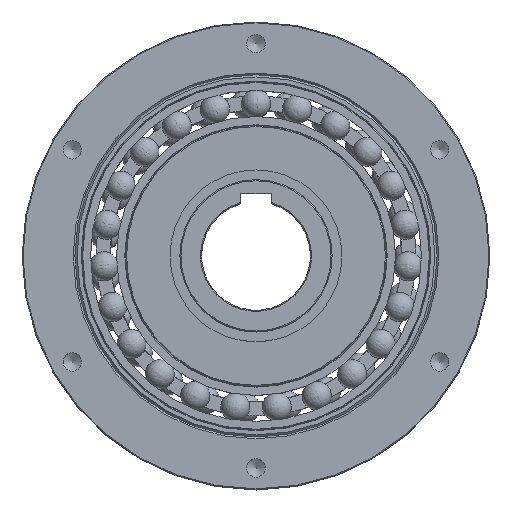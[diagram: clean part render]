
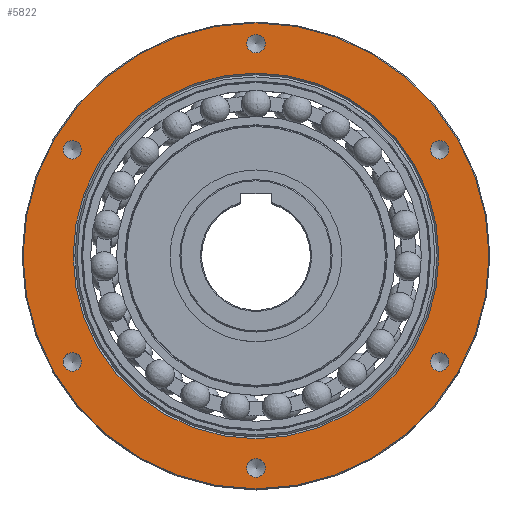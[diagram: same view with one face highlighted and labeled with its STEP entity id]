
A CAD part, top view. The second image highlights one B-rep face of the part: STEP entity #5822.
In plain terms, the highlighted planar face has unit normal (0, 0, 1).
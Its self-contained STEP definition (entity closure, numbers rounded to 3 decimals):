
#119 = EDGE_CURVE ( 'NONE', #1591, #1591, #6785, .T. ) ;
#138 = ORIENTED_EDGE ( 'NONE', *, *, #5409, .F. ) ;
#156 = EDGE_LOOP ( 'NONE', ( #8299 ) ) ;
#352 = VERTEX_POINT ( 'NONE', #7531 ) ;
#525 = DIRECTION ( 'NONE',  ( 0., 0., -1. ) ) ;
#680 = CARTESIAN_POINT ( 'NONE',  ( 0., 97.5, 35.5 ) ) ;
#743 = CARTESIAN_POINT ( 'NONE',  ( -84.437, -48.75, 35.5 ) ) ;
#1171 = DIRECTION ( 'NONE',  ( 0., 0., -1. ) ) ;
#1206 = CARTESIAN_POINT ( 'NONE',  ( 4.25, -97.5, 35.5 ) ) ;
#1258 = CIRCLE ( 'NONE', #8235, 4.25 ) ;
#1397 = DIRECTION ( 'NONE',  ( 1., 0., 0. ) ) ;
#1463 = DIRECTION ( 'NONE',  ( 1., 0., 0. ) ) ;
#1486 = VERTEX_POINT ( 'NONE', #3231 ) ;
#1537 = EDGE_LOOP ( 'NONE', ( #2968 ) ) ;
#1591 = VERTEX_POINT ( 'NONE', #2422 ) ;
#1796 = VERTEX_POINT ( 'NONE', #6120 ) ;
#2048 = AXIS2_PLACEMENT_3D ( 'NONE', #3335, #8305, #4037 ) ;
#2143 = FACE_OUTER_BOUND ( 'NONE', #2428, .T. ) ;
#2245 = FACE_BOUND ( 'NONE', #1537, .T. ) ;
#2359 = FACE_BOUND ( 'NONE', #8919, .T. ) ;
#2422 = CARTESIAN_POINT ( 'NONE',  ( 4.25, 97.5, 35.5 ) ) ;
#2428 = EDGE_LOOP ( 'NONE', ( #6236 ) ) ;
#2470 = FACE_BOUND ( 'NONE', #8309, .T. ) ;
#2544 = CARTESIAN_POINT ( 'NONE',  ( -107.1, 0., 35.5 ) ) ;
#2871 = EDGE_LOOP ( 'NONE', ( #3719 ) ) ;
#2877 = CIRCLE ( 'NONE', #7235, 84.05 ) ;
#2968 = ORIENTED_EDGE ( 'NONE', *, *, #5127, .T. ) ;
#3010 = DIRECTION ( 'NONE',  ( 0., 0., 1. ) ) ;
#3017 = FACE_BOUND ( 'NONE', #8521, .T. ) ;
#3118 = FACE_BOUND ( 'NONE', #156, .T. ) ;
#3129 = DIRECTION ( 'NONE',  ( 0., 0., 1. ) ) ;
#3228 = AXIS2_PLACEMENT_3D ( 'NONE', #4656, #1171, #6082 ) ;
#3231 = CARTESIAN_POINT ( 'NONE',  ( -84.05, 0., 35.5 ) ) ;
#3333 = FACE_BOUND ( 'NONE', #2871, .T. ) ;
#3335 = CARTESIAN_POINT ( 'NONE',  ( 0., 0., 35.5 ) ) ;
#3579 = AXIS2_PLACEMENT_3D ( 'NONE', #7224, #3010, #7976 ) ;
#3655 = VERTEX_POINT ( 'NONE', #1206 ) ;
#3719 = ORIENTED_EDGE ( 'NONE', *, *, #7327, .F. ) ;
#3953 = PLANE ( 'NONE',  #3228 ) ;
#3996 = DIRECTION ( 'NONE',  ( 0., 0., 1. ) ) ;
#4037 = DIRECTION ( 'NONE',  ( -1., 0., 0. ) ) ;
#4049 = CARTESIAN_POINT ( 'NONE',  ( 0., -97.5, 35.5 ) ) ;
#4425 = FACE_BOUND ( 'NONE', #6354, .T. ) ;
#4527 = AXIS2_PLACEMENT_3D ( 'NONE', #743, #5660, #1463 ) ;
#4656 = CARTESIAN_POINT ( 'NONE',  ( 0., 107.5, 35.5 ) ) ;
#4715 = CARTESIAN_POINT ( 'NONE',  ( 0., 0., 35.5 ) ) ;
#4746 = DIRECTION ( 'NONE',  ( 1., 0., 0. ) ) ;
#5048 = EDGE_CURVE ( 'NONE', #5195, #5195, #7465, .T. ) ;
#5127 = EDGE_CURVE ( 'NONE', #1486, #1486, #2877, .T. ) ;
#5195 = VERTEX_POINT ( 'NONE', #2544 ) ;
#5210 = CIRCLE ( 'NONE', #3579, 4.25 ) ;
#5358 = CARTESIAN_POINT ( 'NONE',  ( 88.687, 48.75, 35.5 ) ) ;
#5409 = EDGE_CURVE ( 'NONE', #8553, #8553, #5210, .T. ) ;
#5436 = CIRCLE ( 'NONE', #5715, 4.25 ) ;
#5448 = DIRECTION ( 'NONE',  ( -1., 0., 0. ) ) ;
#5595 = DIRECTION ( 'NONE',  ( 0., 0., 1. ) ) ;
#5660 = DIRECTION ( 'NONE',  ( 0., 0., 1. ) ) ;
#5701 = AXIS2_PLACEMENT_3D ( 'NONE', #680, #5595, #1397 ) ;
#5715 = AXIS2_PLACEMENT_3D ( 'NONE', #7351, #3129, #8090 ) ;
#5822 = ADVANCED_FACE ( 'NONE', ( #3017, #3333, #4425, #2470, #2359, #3118, #2245, #2143 ), #3953, .F. ) ;
#5907 = ORIENTED_EDGE ( 'NONE', *, *, #7174, .F. ) ;
#6082 = DIRECTION ( 'NONE',  ( -1., 0., 0. ) ) ;
#6120 = CARTESIAN_POINT ( 'NONE',  ( -80.187, -48.75, 35.5 ) ) ;
#6226 = EDGE_CURVE ( 'NONE', #8104, #8104, #5436, .T. ) ;
#6236 = ORIENTED_EDGE ( 'NONE', *, *, #5048, .T. ) ;
#6354 = EDGE_LOOP ( 'NONE', ( #5907 ) ) ;
#6405 = CIRCLE ( 'NONE', #4527, 4.25 ) ;
#6661 = EDGE_CURVE ( 'NONE', #352, #352, #1258, .T. ) ;
#6785 = CIRCLE ( 'NONE', #5701, 4.25 ) ;
#7131 = ORIENTED_EDGE ( 'NONE', *, *, #6226, .F. ) ;
#7174 = EDGE_CURVE ( 'NONE', #3655, #3655, #7690, .T. ) ;
#7224 = CARTESIAN_POINT ( 'NONE',  ( 84.437, 48.75, 35.5 ) ) ;
#7235 = AXIS2_PLACEMENT_3D ( 'NONE', #4715, #525, #5448 ) ;
#7327 = EDGE_CURVE ( 'NONE', #1796, #1796, #6405, .T. ) ;
#7351 = CARTESIAN_POINT ( 'NONE',  ( -84.437, 48.75, 35.5 ) ) ;
#7465 = CIRCLE ( 'NONE', #2048, 107.1 ) ;
#7531 = CARTESIAN_POINT ( 'NONE',  ( 88.687, -48.75, 35.5 ) ) ;
#7690 = CIRCLE ( 'NONE', #8068, 4.25 ) ;
#7976 = DIRECTION ( 'NONE',  ( 1., 0., 0. ) ) ;
#8068 = AXIS2_PLACEMENT_3D ( 'NONE', #4049, #9013, #4746 ) ;
#8090 = DIRECTION ( 'NONE',  ( 1., 0., 0. ) ) ;
#8104 = VERTEX_POINT ( 'NONE', #8920 ) ;
#8235 = AXIS2_PLACEMENT_3D ( 'NONE', #8272, #3996, #8960 ) ;
#8272 = CARTESIAN_POINT ( 'NONE',  ( 84.437, -48.75, 35.5 ) ) ;
#8299 = ORIENTED_EDGE ( 'NONE', *, *, #119, .F. ) ;
#8305 = DIRECTION ( 'NONE',  ( 0., 0., 1. ) ) ;
#8309 = EDGE_LOOP ( 'NONE', ( #8622 ) ) ;
#8521 = EDGE_LOOP ( 'NONE', ( #7131 ) ) ;
#8553 = VERTEX_POINT ( 'NONE', #5358 ) ;
#8622 = ORIENTED_EDGE ( 'NONE', *, *, #6661, .F. ) ;
#8919 = EDGE_LOOP ( 'NONE', ( #138 ) ) ;
#8920 = CARTESIAN_POINT ( 'NONE',  ( -80.187, 48.75, 35.5 ) ) ;
#8960 = DIRECTION ( 'NONE',  ( 1., 0., 0. ) ) ;
#9013 = DIRECTION ( 'NONE',  ( 0., 0., 1. ) ) ;
